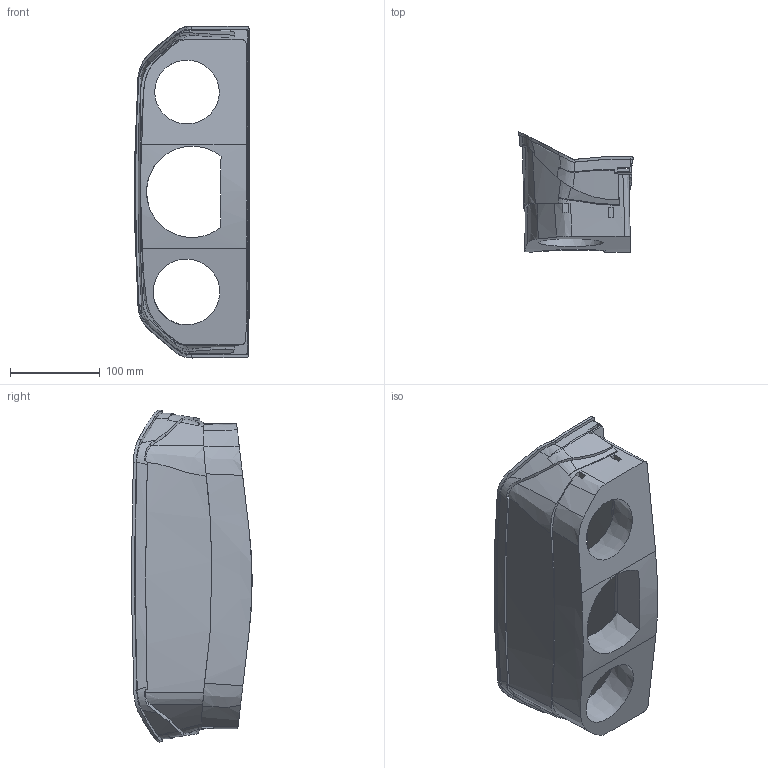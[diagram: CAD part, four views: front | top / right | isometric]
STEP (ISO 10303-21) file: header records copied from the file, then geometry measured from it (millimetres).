
FILE_DESCRIPTION(('STEP AP214'),'1');
FILE_NAME('instrument_cluster.stp','2024-10-17T15:28:45',(' '),(' '),'Spatial InterOp 3D',' ',' ');
FILE_SCHEMA(('AUTOMOTIVE_DESIGN { 1 0 10303 214 1 1 1 1 }'));
Length unit declared in the file: millimetre
Products named in the file (1): 1
Bounding box: 127.17 x 133.62 x 369.42 mm (x, y, z)
Volume: 1193000.8 mm3; surface area: 260580.6 mm2
Topology: 1 solids, 1 shells, 329 faces, 928 edges, 615 vertices
Faces by surface type: bspline 151, plane 139, cylinder 22, offset 10, cone 7
Full cylindrical faces by diameter (mm): 89.592 x1
Entity records: 108406 total; most frequent: CARTESIAN_POINT 101841, ORIENTED_EDGE 1846, EDGE_CURVE 923, B_SPLINE_CURVE_WITH_KNOTS 736, VERTEX_POINT 613, DIRECTION 558, EDGE_LOOP 356, FACE_OUTER_BOUND 330
